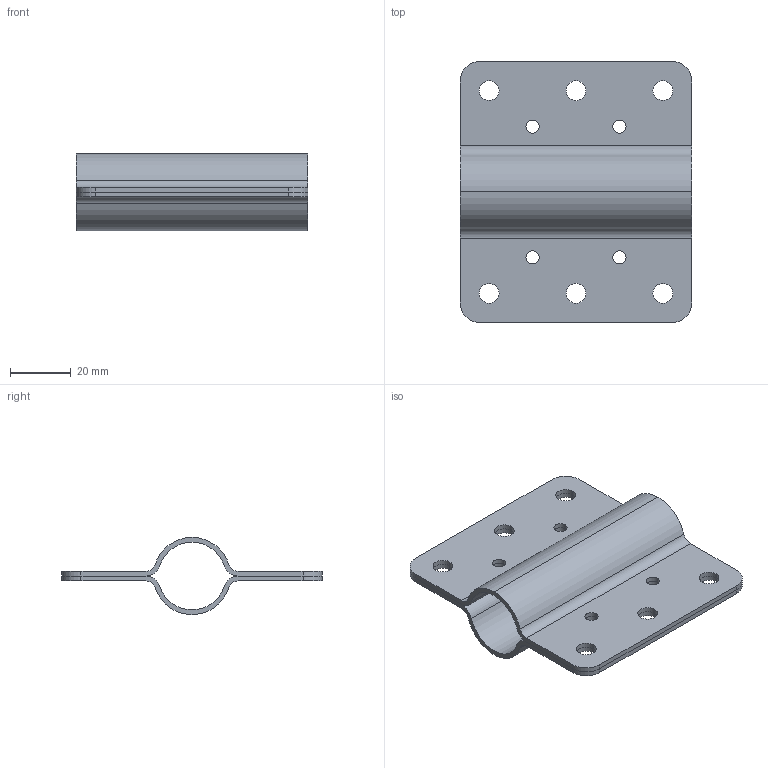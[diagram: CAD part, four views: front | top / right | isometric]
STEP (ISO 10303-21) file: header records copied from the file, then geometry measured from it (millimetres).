
FILE_DESCRIPTION (( 'STEP AP203' ), '1' );
FILE_NAME ('FDPCK-MC.75-EMB-3-3.step', '2019-09-11T18:31:11', ( 'ydmin' ), ( '' ), 'SwSTEP 2.0', 'SolidWorks 2017', '' );
FILE_SCHEMA (( 'CONFIG_CONTROL_DESIGN' ));
Length unit declared in the file: inch
Products named in the file (1): FDPCK-MC.75-EMB-3-3
Bounding box: 76.2 x 85.72 x 25.35 mm (x, y, z)
Volume: 22204.3 mm3; surface area: 29593.4 mm2
Topology: 2 solids, 2 shells, 78 faces, 222 edges, 148 vertices
Faces by surface type: cylinder 62, plane 16
Entity records: 2767 total; most frequent: DIRECTION 504, CARTESIAN_POINT 449, ORIENTED_EDGE 444, EDGE_CURVE 222, AXIS2_PLACEMENT_3D 203, VERTEX_POINT 148, CIRCLE 124, EDGE_LOOP 118
